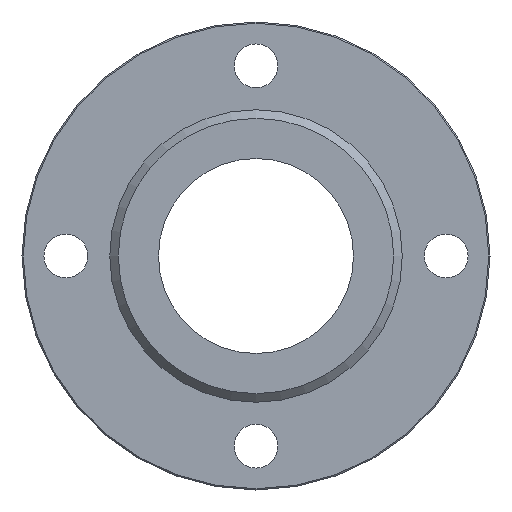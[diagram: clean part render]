
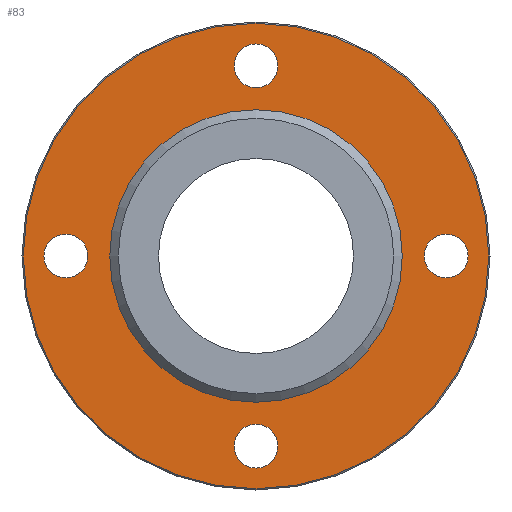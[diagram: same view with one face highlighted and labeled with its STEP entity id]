
A CAD part, left-side view. The second image highlights one B-rep face of the part: STEP entity #83.
In plain terms, the highlighted planar face has unit normal (-1, 0, 0).
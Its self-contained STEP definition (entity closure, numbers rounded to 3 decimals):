
#83=ADVANCED_FACE('',(#125,#126,#127,#128,#129,#130),#131,.F.);
#125=FACE_BOUND('',#196,.T.);
#126=FACE_BOUND('',#197,.T.);
#127=FACE_BOUND('',#198,.T.);
#128=FACE_BOUND('',#199,.T.);
#129=FACE_BOUND('',#200,.T.);
#130=FACE_OUTER_BOUND('',#201,.T.);
#131=PLANE('',#202);
#196=EDGE_LOOP('',(#283));
#197=EDGE_LOOP('',(#284));
#198=EDGE_LOOP('',(#285));
#199=EDGE_LOOP('',(#286));
#200=EDGE_LOOP('',(#287));
#201=EDGE_LOOP('',(#288));
#202=AXIS2_PLACEMENT_3D('',#289,#290,#291);
#283=ORIENTED_EDGE('',*,*,#367,.T.);
#284=ORIENTED_EDGE('',*,*,#368,.T.);
#285=ORIENTED_EDGE('',*,*,#356,.T.);
#286=ORIENTED_EDGE('',*,*,#369,.T.);
#287=ORIENTED_EDGE('',*,*,#370,.T.);
#288=ORIENTED_EDGE('',*,*,#366,.T.);
#289=CARTESIAN_POINT('',(-18.0,47.746,0.0));
#290=DIRECTION('',(1.0,0.0,0.0));
#291=DIRECTION('',(0.0,0.0,-1.0));
#356=EDGE_CURVE('',#385,#385,#386,.T.);
#366=EDGE_CURVE('',#405,#405,#406,.T.);
#367=EDGE_CURVE('',#407,#407,#408,.T.);
#368=EDGE_CURVE('',#409,#409,#410,.T.);
#369=EDGE_CURVE('',#411,#411,#412,.T.);
#370=EDGE_CURVE('',#413,#413,#414,.T.);
#385=VERTEX_POINT('',#435);
#386=CIRCLE('',#436,4.5);
#405=VERTEX_POINT('',#455);
#406=CIRCLE('',#456,47.746);
#407=VERTEX_POINT('',#457);
#408=CIRCLE('',#458,4.5);
#409=VERTEX_POINT('',#459);
#410=CIRCLE('',#460,4.5);
#411=VERTEX_POINT('',#461);
#412=CIRCLE('',#462,4.5);
#413=VERTEX_POINT('',#463);
#414=CIRCLE('',#464,30.0);
#435=CARTESIAN_POINT('',(-18.0,0.0,34.5));
#436=AXIS2_PLACEMENT_3D('',#489,#490,#491);
#455=CARTESIAN_POINT('',(-18.0,0.,47.746));
#456=AXIS2_PLACEMENT_3D('',#519,#520,#521);
#457=CARTESIAN_POINT('',(-18.0,0.,-43.5));
#458=AXIS2_PLACEMENT_3D('',#522,#523,#524);
#459=CARTESIAN_POINT('',(-18.0,-39.0,-4.5));
#460=AXIS2_PLACEMENT_3D('',#525,#526,#527);
#461=CARTESIAN_POINT('',(-18.0,39.0,-4.5));
#462=AXIS2_PLACEMENT_3D('',#528,#529,#530);
#463=CARTESIAN_POINT('',(-18.0,0.,-30.0));
#464=AXIS2_PLACEMENT_3D('',#531,#532,#533);
#489=CARTESIAN_POINT('',(-18.0,0.0,39.0));
#490=DIRECTION('',(1.0,0.0,0.0));
#491=DIRECTION('',(0.0,0.0,-1.0));
#519=CARTESIAN_POINT('',(-18.0,0.,0.0));
#520=DIRECTION('',(-1.0,0.0,0.0));
#521=DIRECTION('',(0.0,0.0,1.0));
#522=CARTESIAN_POINT('',(-18.0,0.,-39.0));
#523=DIRECTION('',(1.0,0.0,0.0));
#524=DIRECTION('',(0.0,0.0,-1.0));
#525=CARTESIAN_POINT('',(-18.0,-39.0,0.));
#526=DIRECTION('',(1.0,0.0,0.0));
#527=DIRECTION('',(0.0,0.0,-1.0));
#528=CARTESIAN_POINT('',(-18.0,39.0,0.0));
#529=DIRECTION('',(1.0,0.0,0.0));
#530=DIRECTION('',(0.0,0.0,-1.0));
#531=CARTESIAN_POINT('',(-18.0,0.,0.0));
#532=DIRECTION('',(1.0,0.0,0.0));
#533=DIRECTION('',(0.0,0.0,-1.0));
